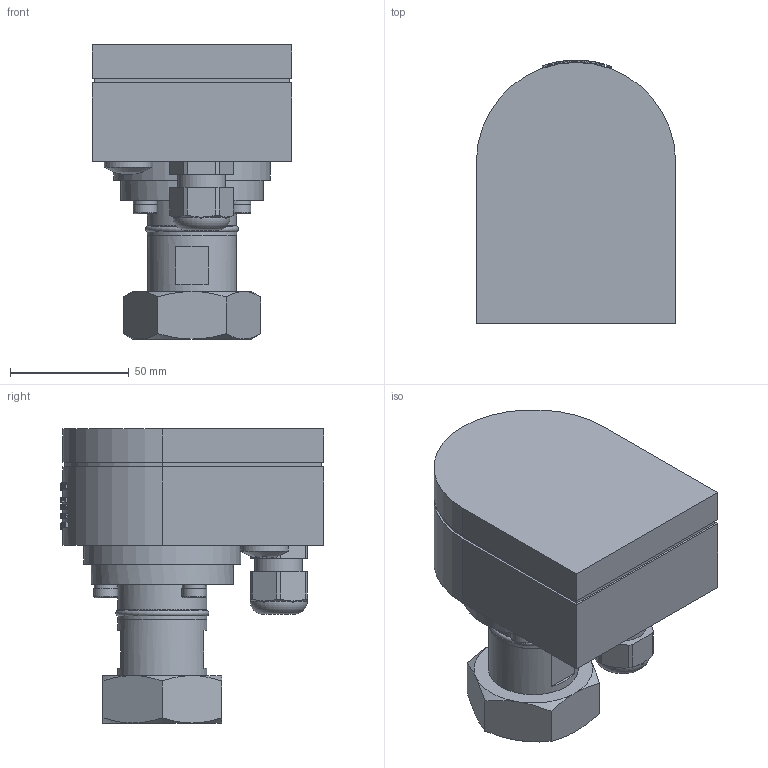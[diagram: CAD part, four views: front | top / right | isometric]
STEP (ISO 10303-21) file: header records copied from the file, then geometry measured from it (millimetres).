
FILE_DESCRIPTION(/* description */ (''),/* implementation_level */ '2;1');
FILE_NAME(/* name */ 'P:\ILC\LC-H-MR\LC-H-MR.stp',/* time_stamp */ '2020-06-05T13:33:01+02:00',/* author */ ('neufeld'),/* organization */ (''),/* preprocessor_version */ 'ST-DEVELOPER v17',/* originating_system */ 'Autodesk Inventor 2019',/* authorisation */ '');
FILE_SCHEMA (('AUTOMOTIVE_DESIGN { 1 0 10303 214 3 1 1 }'));
Products named in the file (1): LC-H-MR_AG-Kunde
Bounding box: 84 x 111 x 123.88 mm (x, y, z)
Volume: 543743.5 mm3; surface area: 56460.3 mm2
Topology: 1 solids, 3 shells, 1223 faces, 3322 edges, 2226 vertices
Faces by surface type: plane 716, bspline 354, cylinder 123, cone 22, torus 8
Full cylindrical faces by diameter (mm): 0.038 x1, 6 x3, 10 x3, 10.9 x1, 13.5 x1, 20 x2, 29 x1, 34.92 x1, 37.5 x2, 37.538 x2, 38 x1, 38.1 x1, 42 x1, 42.4 x1, 60 x1, 66 x1
Entity records: 50520 total; most frequent: CARTESIAN_POINT 21193, ORIENTED_EDGE 6622, DIRECTION 5116, EDGE_CURVE 3311, VERTEX_POINT 2210, AXIS2_PLACEMENT_3D 1764, LINE 1588, VECTOR 1588
